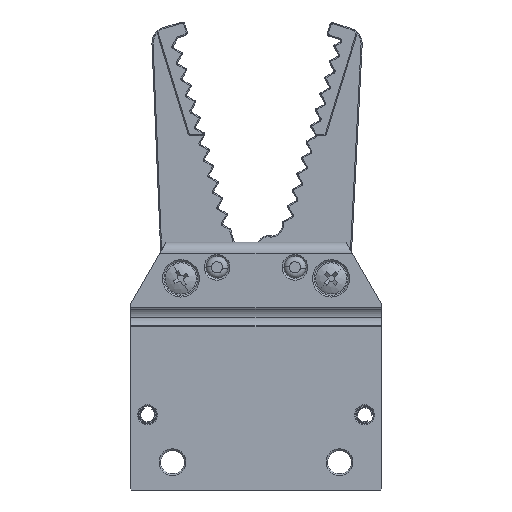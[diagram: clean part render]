
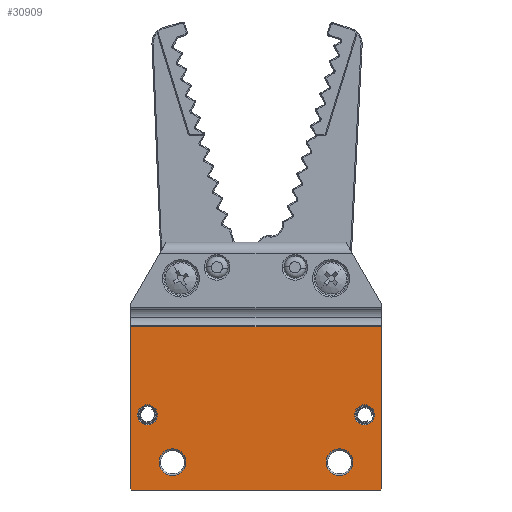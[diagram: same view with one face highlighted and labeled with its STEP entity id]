
A CAD part, front view. The second image highlights one B-rep face of the part: STEP entity #30909.
In plain terms, the highlighted planar face has unit normal (0, -1, 0).
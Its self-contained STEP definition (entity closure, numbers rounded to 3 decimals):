
#9 = CARTESIAN_POINT ( 'NONE',  ( 15., -12.5, -39.5 ) ) ;
#498 = AXIS2_PLACEMENT_3D ( 'NONE', #3390, #25884, #6636 ) ;
#666 = ORIENTED_EDGE ( 'NONE', *, *, #6625, .T. ) ;
#1043 = VECTOR ( 'NONE', #12248, 1000. ) ;
#1200 = CARTESIAN_POINT ( 'NONE',  ( -19.5, -12.5, -32.8 ) ) ;
#1399 = CIRCLE ( 'NONE', #24274, 1.8 ) ;
#1437 = ORIENTED_EDGE ( 'NONE', *, *, #2019, .F. ) ;
#1898 = CARTESIAN_POINT ( 'NONE',  ( -22.5, -12.5, -44.5 ) ) ;
#2019 = EDGE_CURVE ( 'NONE', #40168, #7705, #11374, .T. ) ;
#2210 = DIRECTION ( 'NONE',  ( 0., 0., -1. ) ) ;
#2762 = CARTESIAN_POINT ( 'NONE',  ( 19.5, -12.5, -31. ) ) ;
#2877 = ORIENTED_EDGE ( 'NONE', *, *, #39896, .T. ) ;
#2973 = CARTESIAN_POINT ( 'NONE',  ( -22.4, -12.5, -44.4 ) ) ;
#3216 = CARTESIAN_POINT ( 'NONE',  ( 22.5, -12.5, -15.2 ) ) ;
#3238 = DIRECTION ( 'NONE',  ( 0., 0., -1. ) ) ;
#3353 = CARTESIAN_POINT ( 'NONE',  ( -22.5, -12.5, -15.2 ) ) ;
#3390 = CARTESIAN_POINT ( 'NONE',  ( 19.5, -12.5, -31. ) ) ;
#3581 = VERTEX_POINT ( 'NONE', #31769 ) ;
#3622 = EDGE_CURVE ( 'NONE', #40168, #39926, #4671, .T. ) ;
#4171 = DIRECTION ( 'NONE',  ( 0., 0., 1. ) ) ;
#4174 = EDGE_LOOP ( 'NONE', ( #7764, #39938 ) ) ;
#4280 = CIRCLE ( 'NONE', #12930, 1.8 ) ;
#4439 = LINE ( 'NONE', #3353, #20541 ) ;
#4578 = DIRECTION ( 'NONE',  ( 1., 0., 0. ) ) ;
#4671 = LINE ( 'NONE', #2973, #37809 ) ;
#5323 = ORIENTED_EDGE ( 'NONE', *, *, #18030, .T. ) ;
#5945 = DIRECTION ( 'NONE',  ( 0., 0., -1. ) ) ;
#6188 = VECTOR ( 'NONE', #4171, 1000. ) ;
#6625 = EDGE_CURVE ( 'NONE', #32036, #40356, #18862, .T. ) ;
#6636 = DIRECTION ( 'NONE',  ( 0., 0., -1. ) ) ;
#6830 = CIRCLE ( 'NONE', #19024, 2.4 ) ;
#7186 = FACE_BOUND ( 'NONE', #4174, .T. ) ;
#7510 = EDGE_CURVE ( 'NONE', #13095, #3581, #24322, .T. ) ;
#7705 = VERTEX_POINT ( 'NONE', #10539 ) ;
#7764 = ORIENTED_EDGE ( 'NONE', *, *, #7510, .T. ) ;
#7954 = CIRCLE ( 'NONE', #17071, 2.4 ) ;
#8744 = FACE_BOUND ( 'NONE', #19048, .T. ) ;
#9313 = ORIENTED_EDGE ( 'NONE', *, *, #24593, .T. ) ;
#9419 = DIRECTION ( 'NONE',  ( 0.707, 0., -0.707 ) ) ;
#9600 = VERTEX_POINT ( 'NONE', #26602 ) ;
#9642 = EDGE_LOOP ( 'NONE', ( #33106, #28822 ) ) ;
#10539 = CARTESIAN_POINT ( 'NONE',  ( -22.5, -12.5, -15.2 ) ) ;
#10826 = EDGE_CURVE ( 'NONE', #33984, #28152, #1399, .T. ) ;
#10988 = VECTOR ( 'NONE', #4578, 1000. ) ;
#11012 = AXIS2_PLACEMENT_3D ( 'NONE', #9, #22459, #3238 ) ;
#11374 = LINE ( 'NONE', #1898, #19907 ) ;
#11741 = CARTESIAN_POINT ( 'NONE',  ( -15., -12.5, -39.5 ) ) ;
#12248 = DIRECTION ( 'NONE',  ( 0.707, 0., 0.707 ) ) ;
#12638 = DIRECTION ( 'NONE',  ( 0., 1., 0. ) ) ;
#12930 = AXIS2_PLACEMENT_3D ( 'NONE', #2762, #25211, #5945 ) ;
#13095 = VERTEX_POINT ( 'NONE', #39319 ) ;
#13736 = LINE ( 'NONE', #23424, #6188 ) ;
#13918 = DIRECTION ( 'NONE',  ( 0., 1., 0. ) ) ;
#14148 = CARTESIAN_POINT ( 'NONE',  ( -22.5, -12.5, -44.5 ) ) ;
#14875 = DIRECTION ( 'NONE',  ( 0., 1., 0. ) ) ;
#14976 = DIRECTION ( 'NONE',  ( 0., 0., -1. ) ) ;
#15036 = AXIS2_PLACEMENT_3D ( 'NONE', #40626, #21414, #2210 ) ;
#15524 = EDGE_CURVE ( 'NONE', #28152, #33984, #18585, .T. ) ;
#15675 = CARTESIAN_POINT ( 'NONE',  ( -22.5, -12.5, -44.3 ) ) ;
#17071 = AXIS2_PLACEMENT_3D ( 'NONE', #37976, #18784, #41202 ) ;
#17991 = CARTESIAN_POINT ( 'NONE',  ( 22.5, -12.5, -44.3 ) ) ;
#18030 = EDGE_CURVE ( 'NONE', #40356, #32036, #4280, .T. ) ;
#18585 = CIRCLE ( 'NONE', #40506, 1.8 ) ;
#18784 = DIRECTION ( 'NONE',  ( 0., 1., 0. ) ) ;
#18862 = CIRCLE ( 'NONE', #498, 1.8 ) ;
#19024 = AXIS2_PLACEMENT_3D ( 'NONE', #34106, #14875, #37310 ) ;
#19048 = EDGE_LOOP ( 'NONE', ( #39082, #22443 ) ) ;
#19334 = FACE_BOUND ( 'NONE', #9642, .T. ) ;
#19907 = VECTOR ( 'NONE', #21119, 1000. ) ;
#20136 = CARTESIAN_POINT ( 'NONE',  ( 19.5, -12.5, -29.2 ) ) ;
#20541 = VECTOR ( 'NONE', #25841, 1000. ) ;
#20756 = CARTESIAN_POINT ( 'NONE',  ( -22.3, -12.5, -44.5 ) ) ;
#21119 = DIRECTION ( 'NONE',  ( 0., 0., 1. ) ) ;
#21414 = DIRECTION ( 'NONE',  ( 0., -1., 0. ) ) ;
#21999 = CIRCLE ( 'NONE', #31642, 2.4 ) ;
#22113 = VERTEX_POINT ( 'NONE', #27099 ) ;
#22443 = ORIENTED_EDGE ( 'NONE', *, *, #10826, .T. ) ;
#22459 = DIRECTION ( 'NONE',  ( 0., 1., 0. ) ) ;
#23424 = CARTESIAN_POINT ( 'NONE',  ( 22.5, -12.5, -44.5 ) ) ;
#24141 = EDGE_LOOP ( 'NONE', ( #1437, #38230, #2877, #35182, #9313, #38359 ) ) ;
#24274 = AXIS2_PLACEMENT_3D ( 'NONE', #33165, #13918, #36373 ) ;
#24293 = FACE_BOUND ( 'NONE', #31955, .T. ) ;
#24322 = CIRCLE ( 'NONE', #11012, 2.4 ) ;
#24593 = EDGE_CURVE ( 'NONE', #39373, #32129, #13736, .T. ) ;
#25211 = DIRECTION ( 'NONE',  ( 0., 1., 0. ) ) ;
#25277 = CARTESIAN_POINT ( 'NONE',  ( 19.5, -12.5, -32.8 ) ) ;
#25841 = DIRECTION ( 'NONE',  ( -1., 0., 0. ) ) ;
#25884 = DIRECTION ( 'NONE',  ( 0., 1., 0. ) ) ;
#26602 = CARTESIAN_POINT ( 'NONE',  ( 22.3, -12.5, -44.5 ) ) ;
#27099 = CARTESIAN_POINT ( 'NONE',  ( -15., -12.5, -37.1 ) ) ;
#27623 = EDGE_CURVE ( 'NONE', #22113, #37619, #7954, .T. ) ;
#28152 = VERTEX_POINT ( 'NONE', #1200 ) ;
#28822 = ORIENTED_EDGE ( 'NONE', *, *, #27623, .T. ) ;
#29492 = CARTESIAN_POINT ( 'NONE',  ( -19.5, -12.5, -29.2 ) ) ;
#30909 = ADVANCED_FACE ( 'NONE', ( #7186, #19334, #24293, #8744, #32839 ), #37403, .T. ) ;
#31642 = AXIS2_PLACEMENT_3D ( 'NONE', #11741, #34206, #14976 ) ;
#31769 = CARTESIAN_POINT ( 'NONE',  ( 15., -12.5, -37.1 ) ) ;
#31890 = CARTESIAN_POINT ( 'NONE',  ( -19.5, -12.5, -31. ) ) ;
#31955 = EDGE_LOOP ( 'NONE', ( #666, #5323 ) ) ;
#32036 = VERTEX_POINT ( 'NONE', #25277 ) ;
#32129 = VERTEX_POINT ( 'NONE', #3216 ) ;
#32839 = FACE_OUTER_BOUND ( 'NONE', #24141, .T. ) ;
#33106 = ORIENTED_EDGE ( 'NONE', *, *, #40007, .T. ) ;
#33165 = CARTESIAN_POINT ( 'NONE',  ( -19.5, -12.5, -31. ) ) ;
#33887 = EDGE_CURVE ( 'NONE', #32129, #7705, #4439, .T. ) ;
#33984 = VERTEX_POINT ( 'NONE', #29492 ) ;
#34106 = CARTESIAN_POINT ( 'NONE',  ( 15., -12.5, -39.5 ) ) ;
#34206 = DIRECTION ( 'NONE',  ( 0., 1., 0. ) ) ;
#34580 = LINE ( 'NONE', #14148, #10988 ) ;
#34682 = CARTESIAN_POINT ( 'NONE',  ( -15., -12.5, -41.9 ) ) ;
#35106 = DIRECTION ( 'NONE',  ( 0., 0., -1. ) ) ;
#35182 = ORIENTED_EDGE ( 'NONE', *, *, #38901, .T. ) ;
#36373 = DIRECTION ( 'NONE',  ( 0., 0., -1. ) ) ;
#37310 = DIRECTION ( 'NONE',  ( 0., 0., -1. ) ) ;
#37403 = PLANE ( 'NONE',  #15036 ) ;
#37619 = VERTEX_POINT ( 'NONE', #34682 ) ;
#37809 = VECTOR ( 'NONE', #9419, 1000. ) ;
#37916 = CARTESIAN_POINT ( 'NONE',  ( -0.1, -12.5, -66.9 ) ) ;
#37976 = CARTESIAN_POINT ( 'NONE',  ( -15., -12.5, -39.5 ) ) ;
#38178 = LINE ( 'NONE', #37916, #1043 ) ;
#38230 = ORIENTED_EDGE ( 'NONE', *, *, #3622, .T. ) ;
#38359 = ORIENTED_EDGE ( 'NONE', *, *, #33887, .T. ) ;
#38901 = EDGE_CURVE ( 'NONE', #9600, #39373, #38178, .T. ) ;
#39082 = ORIENTED_EDGE ( 'NONE', *, *, #15524, .T. ) ;
#39319 = CARTESIAN_POINT ( 'NONE',  ( 15., -12.5, -41.9 ) ) ;
#39373 = VERTEX_POINT ( 'NONE', #17991 ) ;
#39896 = EDGE_CURVE ( 'NONE', #39926, #9600, #34580, .T. ) ;
#39926 = VERTEX_POINT ( 'NONE', #20756 ) ;
#39938 = ORIENTED_EDGE ( 'NONE', *, *, #41238, .T. ) ;
#40007 = EDGE_CURVE ( 'NONE', #37619, #22113, #21999, .T. ) ;
#40168 = VERTEX_POINT ( 'NONE', #15675 ) ;
#40356 = VERTEX_POINT ( 'NONE', #20136 ) ;
#40506 = AXIS2_PLACEMENT_3D ( 'NONE', #31890, #12638, #35106 ) ;
#40626 = CARTESIAN_POINT ( 'NONE',  ( -22.5, -12.5, -44.5 ) ) ;
#41202 = DIRECTION ( 'NONE',  ( 0., 0., -1. ) ) ;
#41238 = EDGE_CURVE ( 'NONE', #3581, #13095, #6830, .T. ) ;
